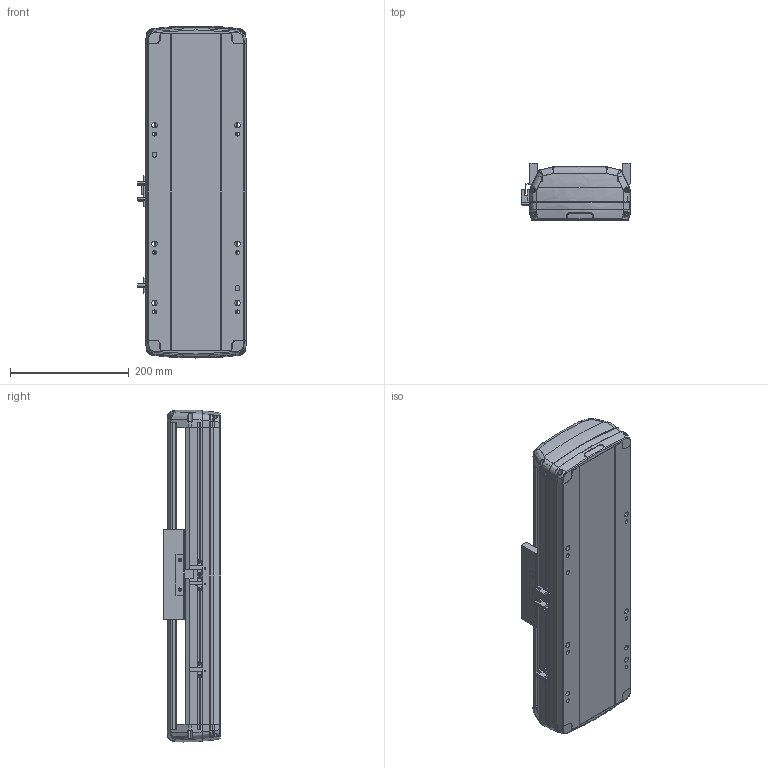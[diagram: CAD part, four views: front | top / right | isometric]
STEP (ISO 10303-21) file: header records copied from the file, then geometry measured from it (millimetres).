
FILE_DESCRIPTION (( 'STEP AP214' ), '1' );
FILE_NAME ('RTH17-XX-150-B-M40-C4.STEP', '2025-10-24T08:29:05', ( '' ), ( '' ), 'SwSTEP 2.0', 'SolidWorks 2018', '' );
FILE_SCHEMA (( 'AUTOMOTIVE_DESIGN' ));
Length unit declared in the file: millimetre
Products named in the file (7): N_RTH17-E-004丝杆螺母连接座^RTH17-XX-XX-B-M40-C4（方程式）; RTH17-XX-150-B-M40-C4; N_RTH-L-012 感应片(外置)^RTH17-XX-XX-B-M40-C4（方程式）; N_RTH17-M-011底座^RTH17-XX-XX-B-M40-C4（方程式）; N_OMRON EE-SX672 換覜ん^RTH17-XX-XX-B-M40-C4ㄗ源最宒ㄘ; N_RTH17-GY-001P^RTH17-XX-XX-B-M40-C4（方程式）; N_RTH17-M-007上盖^RTH17-XX-XX-B-M40-C4（方程式）
Assembly tree (9 placements, depth 2):
  RTH17-XX-150-B-M40-C4
    N_RTH17-M-011底座^RTH17-XX-XX-B-M40-C4（方程式）
    N_RTH17-M-007上盖^RTH17-XX-XX-B-M40-C4（方程式）
    N_OMRON EE-SX672 換覜ん^RTH17-XX-XX-B-M40-C4ㄗ源最宒ㄘ  x3
    N_RTH-L-012 感应片(外置)^RTH17-XX-XX-B-M40-C4（方程式）
    N_RTH17-E-004丝杆螺母连接座^RTH17-XX-XX-B-M40-C4（方程式）
    N_RTH17-GY-001P^RTH17-XX-XX-B-M40-C4（方程式）  x2
Bounding box: 183.5 x 97 x 560.04 mm (x, y, z)
Volume: 4369269.2 mm3; surface area: 670734.5 mm2
Topology: 7 solids, 11 shells, 1688 faces, 4718 edges, 3062 vertices
Faces by surface type: plane 805, bspline 420, cylinder 417, cone 28, torus 18
Entity records: 38742 total; most frequent: CARTESIAN_POINT 16281, ORIENTED_EDGE 4940, DIRECTION 3886, EDGE_CURVE 2474, VERTEX_POINT 1616, LINE 1382, VECTOR 1382, AXIS2_PLACEMENT_3D 1252
